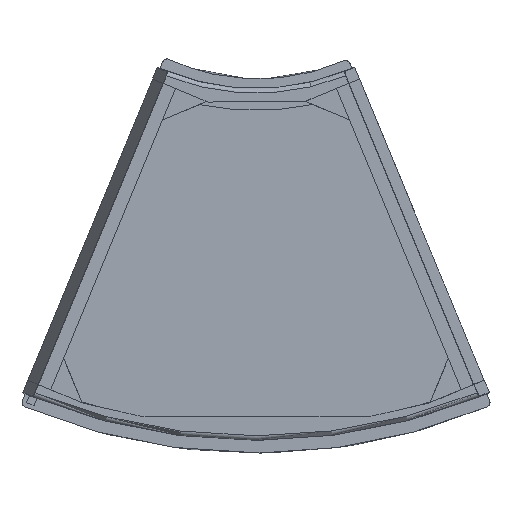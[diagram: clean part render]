
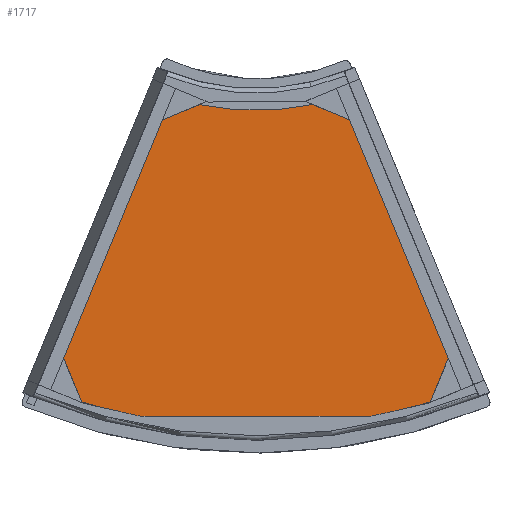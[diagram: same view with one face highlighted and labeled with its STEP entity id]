
A CAD part, front view. The second image highlights one B-rep face of the part: STEP entity #1717.
In plain terms, the highlighted planar face has unit normal (0, -1, 0).
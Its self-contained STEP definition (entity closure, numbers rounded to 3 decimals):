
#73=CIRCLE('',#1844,1284.);
#74=CIRCLE('',#1845,1284.);
#130=B_SPLINE_CURVE_WITH_KNOTS('',3,(#2443,#2444,#2445,#2446,#2447,#2448,
#2449,#2450,#2451),.UNSPECIFIED.,.F.,.F.,(4,1,1,1,1,1,4),(-0.954,
-0.911,-0.706,-0.5,-0.294,
-0.089,-0.045),.UNSPECIFIED.);
#131=B_SPLINE_CURVE_WITH_KNOTS('',3,(#2459,#2460,#2461,#2462,#2463),
 .UNSPECIFIED.,.F.,.F.,(4,1,4),(1.071,1.121,1.141),
 .UNSPECIFIED.);
#132=B_SPLINE_CURVE_WITH_KNOTS('',5,(#2469,#2470,#2471,#2472,#2473,#2474,
#2475,#2476),.UNSPECIFIED.,.F.,.F.,(6,2,6),(0.,0.5,1.),.UNSPECIFIED.);
#133=B_SPLINE_CURVE_WITH_KNOTS('',5,(#2480,#2481,#2482,#2483,#2484,#2485,
#2486,#2487),.UNSPECIFIED.,.F.,.F.,(6,2,6),(0.,0.5,1.),.UNSPECIFIED.);
#134=B_SPLINE_CURVE_WITH_KNOTS('',3,(#2493,#2494,#2495,#2496,#2497),
 .UNSPECIFIED.,.F.,.F.,(4,1,4),(-0.141,-0.121,-0.082),
 .UNSPECIFIED.);
#181=FACE_OUTER_BOUND('',#284,.T.);
#284=EDGE_LOOP('',(#1103,#1104,#1105,#1106,#1107,#1108,#1109,#1110,#1111,
#1112,#1113,#1114,#1115,#1116,#1117,#1118));
#390=LINE('',#2437,#535);
#393=LINE('',#2453,#538);
#394=LINE('',#2455,#539);
#395=LINE('',#2457,#540);
#396=LINE('',#2465,#541);
#397=LINE('',#2478,#542);
#398=LINE('',#2491,#543);
#399=LINE('',#2499,#544);
#400=LINE('',#2500,#545);
#535=VECTOR('',#1997,10.);
#538=VECTOR('',#2002,10.);
#539=VECTOR('',#2003,10.);
#540=VECTOR('',#2004,10.);
#541=VECTOR('',#2005,10.);
#542=VECTOR('',#2008,10.);
#543=VECTOR('',#2011,10.);
#544=VECTOR('',#2012,10.);
#545=VECTOR('',#2013,10.);
#679=VERTEX_POINT('',#2434);
#680=VERTEX_POINT('',#2436);
#682=VERTEX_POINT('',#2442);
#683=VERTEX_POINT('',#2452);
#684=VERTEX_POINT('',#2454);
#685=VERTEX_POINT('',#2456);
#686=VERTEX_POINT('',#2458);
#687=VERTEX_POINT('',#2464);
#688=VERTEX_POINT('',#2466);
#689=VERTEX_POINT('',#2468);
#690=VERTEX_POINT('',#2477);
#691=VERTEX_POINT('',#2479);
#692=VERTEX_POINT('',#2488);
#693=VERTEX_POINT('',#2490);
#694=VERTEX_POINT('',#2492);
#695=VERTEX_POINT('',#2498);
#839=EDGE_CURVE('',#680,#679,#390,.T.);
#842=EDGE_CURVE('',#682,#679,#130,.T.);
#843=EDGE_CURVE('',#682,#683,#393,.T.);
#844=EDGE_CURVE('',#684,#683,#394,.T.);
#845=EDGE_CURVE('',#684,#685,#395,.T.);
#846=EDGE_CURVE('',#686,#685,#131,.T.);
#847=EDGE_CURVE('',#686,#687,#396,.T.);
#848=EDGE_CURVE('',#687,#688,#73,.T.);
#849=EDGE_CURVE('',#688,#689,#132,.T.);
#850=EDGE_CURVE('',#689,#690,#397,.T.);
#851=EDGE_CURVE('',#690,#691,#133,.T.);
#852=EDGE_CURVE('',#691,#692,#74,.T.);
#853=EDGE_CURVE('',#692,#693,#398,.T.);
#854=EDGE_CURVE('',#694,#693,#134,.T.);
#855=EDGE_CURVE('',#694,#695,#399,.T.);
#856=EDGE_CURVE('',#680,#695,#400,.T.);
#1103=ORIENTED_EDGE('',*,*,#839,.T.);
#1104=ORIENTED_EDGE('',*,*,#842,.F.);
#1105=ORIENTED_EDGE('',*,*,#843,.T.);
#1106=ORIENTED_EDGE('',*,*,#844,.F.);
#1107=ORIENTED_EDGE('',*,*,#845,.T.);
#1108=ORIENTED_EDGE('',*,*,#846,.F.);
#1109=ORIENTED_EDGE('',*,*,#847,.T.);
#1110=ORIENTED_EDGE('',*,*,#848,.T.);
#1111=ORIENTED_EDGE('',*,*,#849,.T.);
#1112=ORIENTED_EDGE('',*,*,#850,.T.);
#1113=ORIENTED_EDGE('',*,*,#851,.T.);
#1114=ORIENTED_EDGE('',*,*,#852,.T.);
#1115=ORIENTED_EDGE('',*,*,#853,.T.);
#1116=ORIENTED_EDGE('',*,*,#854,.F.);
#1117=ORIENTED_EDGE('',*,*,#855,.T.);
#1118=ORIENTED_EDGE('',*,*,#856,.F.);
#1616=PLANE('',#1843);
#1717=ADVANCED_FACE('',(#181),#1616,.T.);
#1843=AXIS2_PLACEMENT_3D('',#2441,#2000,#2001);
#1844=AXIS2_PLACEMENT_3D('',#2467,#2006,#2007);
#1845=AXIS2_PLACEMENT_3D('',#2489,#2009,#2010);
#1997=DIRECTION('',(-0.924,0.,0.383));
#2000=DIRECTION('center_axis',(0.,-1.,0.));
#2001=DIRECTION('ref_axis',(-0.383,0.,0.924));
#2002=DIRECTION('',(-0.924,0.,-0.383));
#2003=DIRECTION('',(0.383,0.,0.924));
#2004=DIRECTION('',(0.383,0.,-0.924));
#2005=DIRECTION('',(0.976,0.,-0.22));
#2006=DIRECTION('center_axis',(0.,-1.,0.));
#2007=DIRECTION('ref_axis',(0.001,0.,-1.));
#2008=DIRECTION('',(1.,0.,0.001));
#2009=DIRECTION('center_axis',(0.,-1.,0.));
#2010=DIRECTION('ref_axis',(0.001,0.,-1.));
#2011=DIRECTION('',(0.975,0.,0.221));
#2012=DIRECTION('',(0.383,0.,0.924));
#2013=DIRECTION('',(0.383,0.,-0.924));
#2434=CARTESIAN_POINT('',(125.712,70.,768.639));
#2436=CARTESIAN_POINT('',(230.007,70.,725.444));
#2437=CARTESIAN_POINT('',(467.527,70.,627.071));
#2441=CARTESIAN_POINT('Origin',(519.123,70.,105.851));
#2442=CARTESIAN_POINT('',(-125.389,70.,768.57));
#2443=CARTESIAN_POINT('Ctrl Pts',(-125.389,70.,768.57));
#2444=CARTESIAN_POINT('Ctrl Pts',(-121.555,70.,767.753));
#2445=CARTESIAN_POINT('Ctrl Pts',(-99.129,70.,763.203));
#2446=CARTESIAN_POINT('Ctrl Pts',(-57.445,70.,757.191));
#2447=CARTESIAN_POINT('Ctrl Pts',(0.,70.,
754.442));
#2448=CARTESIAN_POINT('Ctrl Pts',(57.445,70.,757.191));
#2449=CARTESIAN_POINT('Ctrl Pts',(99.239,70.,763.219));
#2450=CARTESIAN_POINT('Ctrl Pts',(121.771,70.,767.797));
#2451=CARTESIAN_POINT('Ctrl Pts',(125.712,70.,768.639));
#2452=CARTESIAN_POINT('',(-230.109,70.,725.199));
#2453=CARTESIAN_POINT('',(-24.428,70.,810.385));
#2454=CARTESIAN_POINT('',(-434.108,70.,232.701));
#2455=CARTESIAN_POINT('',(2294.48,70.,6820.095));
#2456=CARTESIAN_POINT('',(-384.563,70.,113.076));
#2457=CARTESIAN_POINT('',(-343.815,70.,14.69));
#2458=CARTESIAN_POINT('',(-344.597,70.,101.607));
#2459=CARTESIAN_POINT('Ctrl Pts',(-344.597,70.,101.607));
#2460=CARTESIAN_POINT('Ctrl Pts',(-354.217,70.,104.204));
#2461=CARTESIAN_POINT('Ctrl Pts',(-367.566,70.,107.972));
#2462=CARTESIAN_POINT('Ctrl Pts',(-380.823,70.,111.938));
#2463=CARTESIAN_POINT('Ctrl Pts',(-384.563,70.,113.076));
#2464=CARTESIAN_POINT('',(-305.393,70.,92.769));
#2465=CARTESIAN_POINT('',(471.855,70.,-82.445));
#2466=CARTESIAN_POINT('',(-259.968,70.,82.529));
#2467=CARTESIAN_POINT('Origin',(-0.363,70.,1340.011));
#2468=CARTESIAN_POINT('',(-239.674,70.,80.464));
#2469=CARTESIAN_POINT('Ctrl Pts',(-259.968,70.,82.529));
#2470=CARTESIAN_POINT('Ctrl Pts',(-258.042,70.,82.131));
#2471=CARTESIAN_POINT('Ctrl Pts',(-256.125,70.,81.739));
#2472=CARTESIAN_POINT('Ctrl Pts',(-252.011,70.,80.979));
#2473=CARTESIAN_POINT('Ctrl Pts',(-247.808,70.,80.546));
#2474=CARTESIAN_POINT('Ctrl Pts',(-243.513,70.,80.461));
#2475=CARTESIAN_POINT('Ctrl Pts',(-241.593,70.,80.462));
#2476=CARTESIAN_POINT('Ctrl Pts',(-239.674,70.,80.464));
#2477=CARTESIAN_POINT('',(240.847,70.,80.826));
#2478=CARTESIAN_POINT('',(517.482,70.,81.034));
#2479=CARTESIAN_POINT('',(261.137,70.,82.921));
#2480=CARTESIAN_POINT('Ctrl Pts',(240.847,70.,80.826));
#2481=CARTESIAN_POINT('Ctrl Pts',(242.766,70.,80.827));
#2482=CARTESIAN_POINT('Ctrl Pts',(244.685,70.,80.829));
#2483=CARTESIAN_POINT('Ctrl Pts',(248.98,70.,80.921));
#2484=CARTESIAN_POINT('Ctrl Pts',(253.183,70.,81.36));
#2485=CARTESIAN_POINT('Ctrl Pts',(257.295,70.,82.126));
#2486=CARTESIAN_POINT('Ctrl Pts',(259.211,70.,82.521));
#2487=CARTESIAN_POINT('Ctrl Pts',(261.137,70.,82.921));
#2488=CARTESIAN_POINT('',(306.818,70.,93.297));
#2489=CARTESIAN_POINT('Origin',(-0.363,70.,1340.011));
#2490=CARTESIAN_POINT('',(350.561,70.,103.232));
#2491=CARTESIAN_POINT('',(512.85,70.,140.092));
#2492=CARTESIAN_POINT('',(384.563,70.,113.076));
#2493=CARTESIAN_POINT('Ctrl Pts',(384.563,70.,113.076));
#2494=CARTESIAN_POINT('Ctrl Pts',(380.823,70.,111.938));
#2495=CARTESIAN_POINT('Ctrl Pts',(369.533,70.,108.56));
#2496=CARTESIAN_POINT('Ctrl Pts',(358.176,70.,105.327));
#2497=CARTESIAN_POINT('Ctrl Pts',(350.561,70.,103.232));
#2498=CARTESIAN_POINT('',(434.108,70.,232.701));
#2499=CARTESIAN_POINT('',(419.824,70.,198.212));
#2500=CARTESIAN_POINT('',(-2218.456,70.,6636.558));
